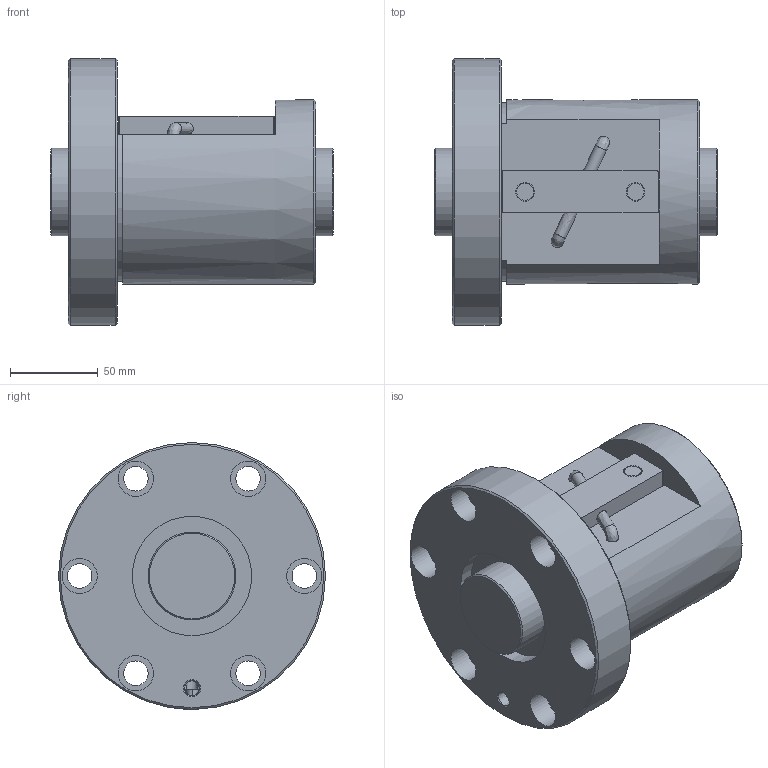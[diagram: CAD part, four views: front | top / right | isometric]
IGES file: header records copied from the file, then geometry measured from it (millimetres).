
Start section: Data from Parasolid IGES Translator 26.0.171, Copyright(c) 2006 Siemens PLM Software. All Rights Reserved.
Global section: file name: BNF5020V-2.5RRG1+161LC0_000_rev.igs; native system: By Siemens PLM Incorporated; preprocessor: XPlus GENERIC/IGES 26.0.171; author: Noname; organization: Noname; date: 20240806.094951; units: millimetre
Bounding box: 161 x 152 x 152 mm (x, y, z)
Surface area: 148381.3 mm2 (no closed solid volume)
Topology: 0 solids, 0 shells, 72 faces, 334 edges, 302 vertices
Faces by surface type: revolution 45, extrusion 27
